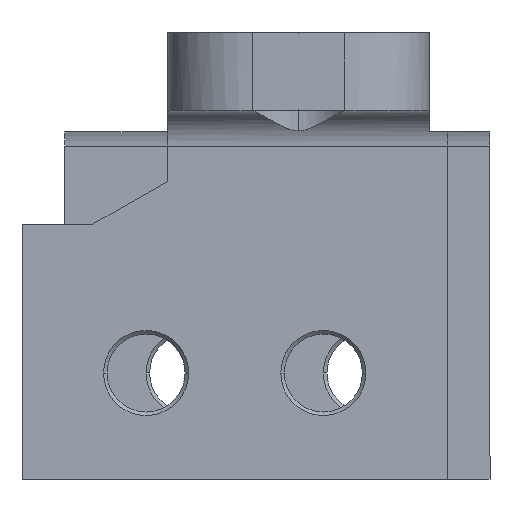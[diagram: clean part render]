
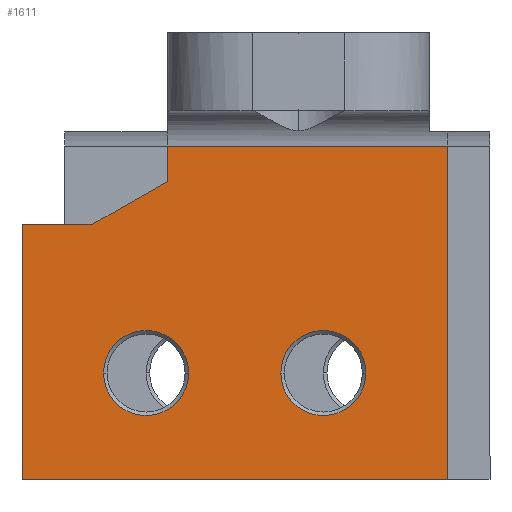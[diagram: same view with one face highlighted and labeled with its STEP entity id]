
A CAD part, left-side view. The second image highlights one B-rep face of the part: STEP entity #1611.
In plain terms, the highlighted planar face has unit normal (-1, 0, 0).
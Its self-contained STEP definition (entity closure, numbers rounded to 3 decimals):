
#8 = FACE_OUTER_BOUND ( 'NONE', #3882, .T. ) ;
#221 = VERTEX_POINT ( 'NONE', #5357 ) ;
#351 = DIRECTION ( 'NONE',  ( 1., 0., 0. ) ) ;
#384 = CIRCLE ( 'NONE', #4912, 6. ) ;
#410 = CARTESIAN_POINT ( 'NONE',  ( -145., 37.25, -112.5 ) ) ;
#535 = LINE ( 'NONE', #1848, #5237 ) ;
#537 = VERTEX_POINT ( 'NONE', #410 ) ;
#562 = DIRECTION ( 'NONE',  ( 0., 0., -1. ) ) ;
#564 = EDGE_LOOP ( 'NONE', ( #1300, #3145 ) ) ;
#621 = CARTESIAN_POINT ( 'NONE',  ( -145., 79.75, -144.5 ) ) ;
#661 = EDGE_CURVE ( 'NONE', #537, #5745, #2380, .T. ) ;
#764 = VECTOR ( 'NONE', #5369, 1000. ) ;
#1016 = DIRECTION ( 'NONE',  ( 0., -1., 0. ) ) ;
#1278 = CARTESIAN_POINT ( 'NONE',  ( -145., 57., -96.5 ) ) ;
#1300 = ORIENTED_EDGE ( 'NONE', *, *, #2806, .T. ) ;
#1443 = LINE ( 'NONE', #5808, #2278 ) ;
#1611 = ADVANCED_FACE ( 'NONE', ( #3184, #3619, #8 ), #5576, .F. ) ;
#1628 = VERTEX_POINT ( 'NONE', #5595 ) ;
#1654 = CARTESIAN_POINT ( 'NONE',  ( -145., 76.75, -112.5 ) ) ;
#1675 = VERTEX_POINT ( 'NONE', #4132 ) ;
#1726 = LINE ( 'NONE', #4449, #2330 ) ;
#1829 = AXIS2_PLACEMENT_3D ( 'NONE', #3451, #2061, #1016 ) ;
#1848 = CARTESIAN_POINT ( 'NONE',  ( -145., 87.25, -123.5 ) ) ;
#1862 = ORIENTED_EDGE ( 'NONE', *, *, #3230, .T. ) ;
#2039 = CARTESIAN_POINT ( 'NONE',  ( -145., 48.75, -144.5 ) ) ;
#2061 = DIRECTION ( 'NONE',  ( 1., 0., 0. ) ) ;
#2182 = EDGE_CURVE ( 'NONE', #2195, #4652, #3178, .T. ) ;
#2195 = VERTEX_POINT ( 'NONE', #3755 ) ;
#2248 = CARTESIAN_POINT ( 'NONE',  ( -145., 60.75, -144.5 ) ) ;
#2270 = CARTESIAN_POINT ( 'NONE',  ( -145., 54.75, -144.5 ) ) ;
#2271 = CARTESIAN_POINT ( 'NONE',  ( -145., 73.75, -144.5 ) ) ;
#2274 = VERTEX_POINT ( 'NONE', #3355 ) ;
#2278 = VECTOR ( 'NONE', #3478, 1000. ) ;
#2282 = ORIENTED_EDGE ( 'NONE', *, *, #4987, .T. ) ;
#2320 = CARTESIAN_POINT ( 'NONE',  ( -145., 37.25, -159.5 ) ) ;
#2330 = VECTOR ( 'NONE', #3496, 1000. ) ;
#2349 = AXIS2_PLACEMENT_3D ( 'NONE', #1278, #351, #6022 ) ;
#2361 = DIRECTION ( 'NONE',  ( 0., -1., 0. ) ) ;
#2380 = LINE ( 'NONE', #2398, #2817 ) ;
#2398 = CARTESIAN_POINT ( 'NONE',  ( -145., 57., -112.5 ) ) ;
#2453 = EDGE_CURVE ( 'NONE', #2664, #1628, #384, .T. ) ;
#2664 = VERTEX_POINT ( 'NONE', #2271 ) ;
#2678 = DIRECTION ( 'NONE',  ( 1., 0., 0. ) ) ;
#2806 = EDGE_CURVE ( 'NONE', #1628, #2664, #3378, .T. ) ;
#2817 = VECTOR ( 'NONE', #5697, 1000. ) ;
#2831 = AXIS2_PLACEMENT_3D ( 'NONE', #2270, #3182, #3646 ) ;
#2848 = CARTESIAN_POINT ( 'NONE',  ( -145., 97.25, -159.5 ) ) ;
#2850 = VECTOR ( 'NONE', #562, 1000. ) ;
#2862 = CIRCLE ( 'NONE', #3731, 6. ) ;
#3124 = ORIENTED_EDGE ( 'NONE', *, *, #3168, .T. ) ;
#3145 = ORIENTED_EDGE ( 'NONE', *, *, #2453, .T. ) ;
#3155 = DIRECTION ( 'NONE',  ( 0., -1., 0. ) ) ;
#3168 = EDGE_CURVE ( 'NONE', #5184, #4919, #2862, .T. ) ;
#3178 = LINE ( 'NONE', #2848, #4053 ) ;
#3182 = DIRECTION ( 'NONE',  ( 1., 0., 0. ) ) ;
#3184 = FACE_BOUND ( 'NONE', #564, .T. ) ;
#3230 = EDGE_CURVE ( 'NONE', #1675, #2195, #1443, .T. ) ;
#3259 = DIRECTION ( 'NONE',  ( 0., 1., 0. ) ) ;
#3318 = EDGE_CURVE ( 'NONE', #2274, #221, #4326, .T. ) ;
#3355 = CARTESIAN_POINT ( 'NONE',  ( -145., 76.75, -117.5 ) ) ;
#3378 = CIRCLE ( 'NONE', #1829, 6. ) ;
#3435 = CARTESIAN_POINT ( 'NONE',  ( -145., 76.75, -117.5 ) ) ;
#3451 = CARTESIAN_POINT ( 'NONE',  ( -145., 79.75, -144.5 ) ) ;
#3478 = DIRECTION ( 'NONE',  ( 0., 0., -1. ) ) ;
#3479 = ORIENTED_EDGE ( 'NONE', *, *, #4346, .T. ) ;
#3496 = DIRECTION ( 'NONE',  ( 0., 0., 1. ) ) ;
#3564 = EDGE_CURVE ( 'NONE', #4919, #5184, #5153, .T. ) ;
#3566 = ORIENTED_EDGE ( 'NONE', *, *, #6103, .T. ) ;
#3619 = FACE_BOUND ( 'NONE', #4280, .T. ) ;
#3646 = DIRECTION ( 'NONE',  ( 0., -1., 0. ) ) ;
#3731 = AXIS2_PLACEMENT_3D ( 'NONE', #5037, #2678, #3155 ) ;
#3755 = CARTESIAN_POINT ( 'NONE',  ( -145., 97.25, -159.5 ) ) ;
#3882 = EDGE_LOOP ( 'NONE', ( #2282, #5651, #3479, #5780, #3566, #1862, #4708 ) ) ;
#4053 = VECTOR ( 'NONE', #2361, 1000. ) ;
#4132 = CARTESIAN_POINT ( 'NONE',  ( -145., 97.25, -123.5 ) ) ;
#4280 = EDGE_LOOP ( 'NONE', ( #3124, #4876 ) ) ;
#4326 = LINE ( 'NONE', #3435, #764 ) ;
#4346 = EDGE_CURVE ( 'NONE', #5745, #2274, #6112, .T. ) ;
#4449 = CARTESIAN_POINT ( 'NONE',  ( -145., 37.25, -159.5 ) ) ;
#4652 = VERTEX_POINT ( 'NONE', #2320 ) ;
#4708 = ORIENTED_EDGE ( 'NONE', *, *, #2182, .T. ) ;
#4876 = ORIENTED_EDGE ( 'NONE', *, *, #3564, .T. ) ;
#4912 = AXIS2_PLACEMENT_3D ( 'NONE', #621, #4951, #5896 ) ;
#4919 = VERTEX_POINT ( 'NONE', #2039 ) ;
#4951 = DIRECTION ( 'NONE',  ( 1., 0., 0. ) ) ;
#4987 = EDGE_CURVE ( 'NONE', #4652, #537, #1726, .T. ) ;
#5037 = CARTESIAN_POINT ( 'NONE',  ( -145., 54.75, -144.5 ) ) ;
#5153 = CIRCLE ( 'NONE', #2831, 6. ) ;
#5184 = VERTEX_POINT ( 'NONE', #2248 ) ;
#5237 = VECTOR ( 'NONE', #3259, 1000. ) ;
#5357 = CARTESIAN_POINT ( 'NONE',  ( -145., 87.25, -123.5 ) ) ;
#5369 = DIRECTION ( 'NONE',  ( 0., 0.868, -0.496 ) ) ;
#5576 = PLANE ( 'NONE',  #2349 ) ;
#5595 = CARTESIAN_POINT ( 'NONE',  ( -145., 85.75, -144.5 ) ) ;
#5651 = ORIENTED_EDGE ( 'NONE', *, *, #661, .T. ) ;
#5697 = DIRECTION ( 'NONE',  ( 0., 1., 0. ) ) ;
#5745 = VERTEX_POINT ( 'NONE', #1654 ) ;
#5780 = ORIENTED_EDGE ( 'NONE', *, *, #3318, .T. ) ;
#5792 = CARTESIAN_POINT ( 'NONE',  ( -145., 76.75, -107.5 ) ) ;
#5808 = CARTESIAN_POINT ( 'NONE',  ( -145., 97.25, -123.5 ) ) ;
#5896 = DIRECTION ( 'NONE',  ( 0., -1., 0. ) ) ;
#6022 = DIRECTION ( 'NONE',  ( 0., -1., 0. ) ) ;
#6103 = EDGE_CURVE ( 'NONE', #221, #1675, #535, .T. ) ;
#6112 = LINE ( 'NONE', #5792, #2850 ) ;
